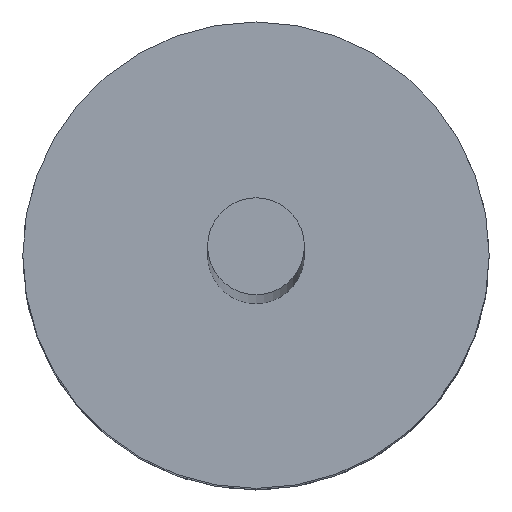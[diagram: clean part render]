
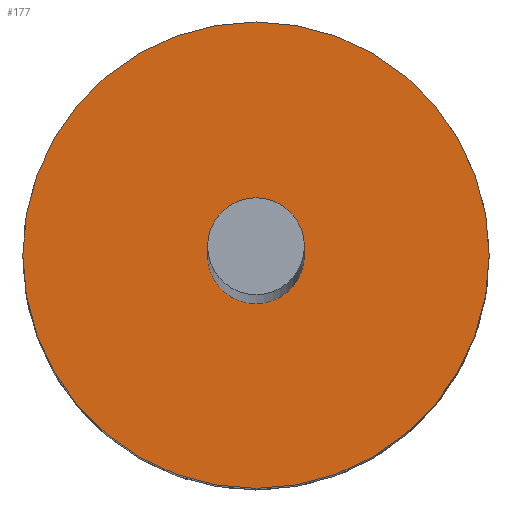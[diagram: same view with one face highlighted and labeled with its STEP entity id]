
A CAD part, top view. The second image highlights one B-rep face of the part: STEP entity #177.
In plain terms, the highlighted planar face has unit normal (0, 0, 1).
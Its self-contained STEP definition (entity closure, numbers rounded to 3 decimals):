
#177=ADVANCED_FACE('',(#204),#194,.F.);
#194=PLANE('',#310);
#204=FACE_OUTER_BOUND('',#210,.T.);
#210=EDGE_LOOP('',(#238));
#238=ORIENTED_EDGE('',*,*,#280,.T.);
#266=VERTEX_POINT('',#406);
#280=EDGE_CURVE('',#266,#266,#294,.T.);
#294=CIRCLE('',#309,1.3);
#309=AXIS2_PLACEMENT_3D('',#405,#342,#343);
#310=AXIS2_PLACEMENT_3D('',#407,#344,#345);
#342=DIRECTION('',(0.,0.,1.));
#343=DIRECTION('',(1.,0.,0.));
#344=DIRECTION('',(0.,0.,-1.));
#345=DIRECTION('',(-1.,0.,0.));
#405=CARTESIAN_POINT('',(0.,0.,34.34));
#406=CARTESIAN_POINT('',(1.3,0.,34.34));
#407=CARTESIAN_POINT('',(-1.3,0.,34.34));
